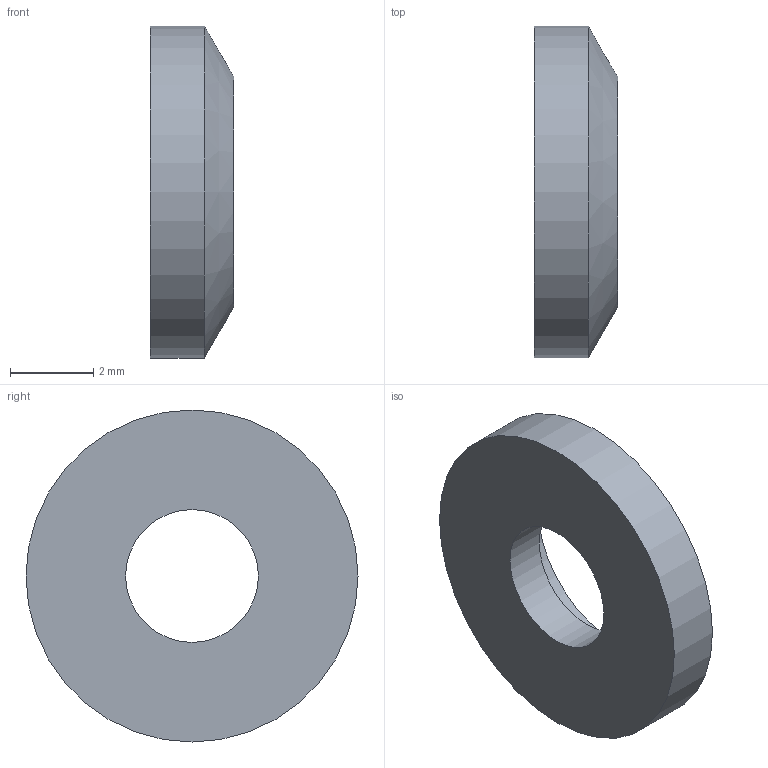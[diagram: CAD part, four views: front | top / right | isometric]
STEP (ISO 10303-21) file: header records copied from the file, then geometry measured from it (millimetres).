
FILE_DESCRIPTION(/* description */ ('Abschlussscheiben für Bügelgriff','CAx-IF Rec.Pracs.---Representation and Presentation of Product Manufacturing Information (PMI)---4.0---2014-10-13'),/* implementation_level */ '2;1');
FILE_NAME(/* name */ 'E:\CAMTEC_2020_Pack and Go\Subrack_2U\2530318_1.stp',/* time_stamp */ '2020-09-21T13:52:02+02:00',/* author */ ('rryba'),/* organization */ (''),/* preprocessor_version */ 'ST-DEVELOPER v18.1',/* originating_system */ 'Autodesk Inventor 2021',/* authorisation */ '');
FILE_SCHEMA (('AP242_MANAGED_MODEL_BASED_3D_ENGINEERING_MIM_LF { 1 0 10303 442 1 1 4 }'));
Length unit declared in the file: millimetre
Products named in the file (1): 2530318_1
Bounding box: 2 x 8 x 8 mm (x, y, z)
Volume: 60.8 mm3; surface area: 147.8 mm2
Topology: 1 solids, 1 shells, 7 faces, 18 edges, 21 vertices
Faces by surface type: cylinder 3, plane 3, cone 1
Full cylindrical faces by diameter (mm): 3.2 x1, 5.3 x1, 8 x1
Entity records: 250 total; most frequent: CARTESIAN_POINT 40, DIRECTION 34, ORIENTED_EDGE 22, AXIS2_PLACEMENT_3D 15, EDGE_CURVE 11, EDGE_LOOP 10, STYLED_ITEM 9, POLYLINE 7
